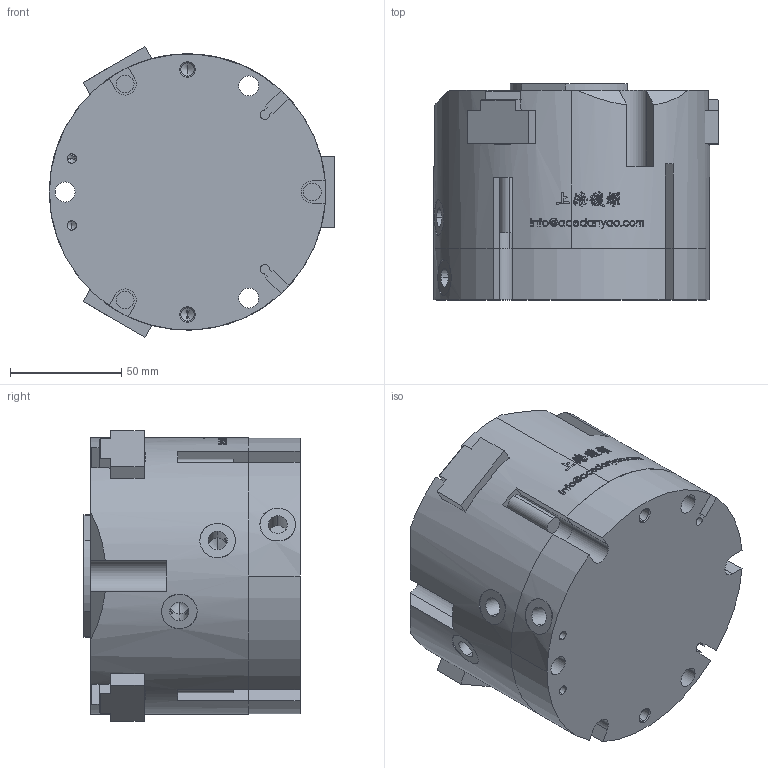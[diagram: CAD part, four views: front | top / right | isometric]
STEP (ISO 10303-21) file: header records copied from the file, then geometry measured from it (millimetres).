
FILE_DESCRIPTION (( 'STEP AP203' ), '1' );
FILE_NAME ('MAC3-125-C2-MC&MA-原始檔-組合-W106.04.14.STEP', '2017-04-14T03:33:15', ( 'DanyaoCAD' ), ( '' ), 'SwSTEP 2.0', 'SolidWorks 2016', '' );
FILE_SCHEMA (( 'CONFIG_CONTROL_DESIGN' ));
Length unit declared in the file: millimetre
Products named in the file (5): Fondello; MAC3-125-C2-MC&MA-原始檔-組合-W106.04.14; Corpo; Griffa; Coperchio
Assembly tree (6 placements, depth 2):
  MAC3-125-C2-MC&MA-原始檔-組合-W106.04.14
    Corpo
    Griffa  x3
    Coperchio
    Fondello
Bounding box: 128 x 97 x 130.32 mm (x, y, z)
Volume: 1049491.6 mm3; surface area: 146174.6 mm2
Topology: 6 solids, 6 shells, 1197 faces, 3305 edges, 2157 vertices
Faces by surface type: bspline 665, plane 269, cylinder 197, cone 66
Entity records: 93216 total; most frequent: CARTESIAN_POINT 69631, ORIENTED_EDGE 6198, EDGE_CURVE 3099, DIRECTION 2360, VERTEX_POINT 2053, B_SPLINE_CURVE_WITH_KNOTS 2051, EDGE_LOOP 1234, FACE_OUTER_BOUND 1131
